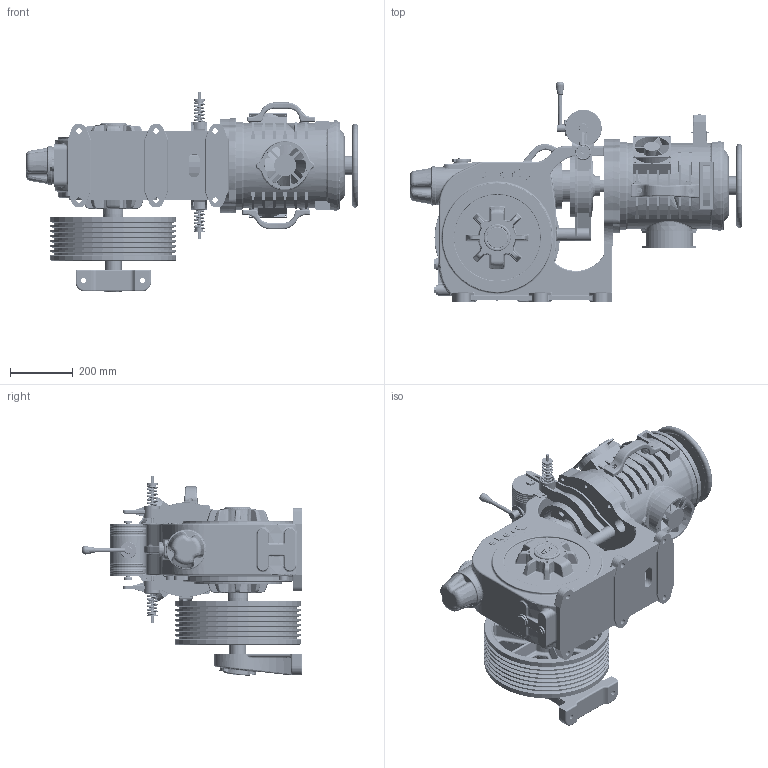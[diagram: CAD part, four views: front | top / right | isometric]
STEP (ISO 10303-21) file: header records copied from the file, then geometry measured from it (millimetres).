
FILE_DESCRIPTION (( 'STEP AP214' ), '1' );
FILE_NAME ('STP15063.STEP', '2026-01-27T13:14:37', ( '' ), ( '' ), 'SwSTEP 2.0', 'SolidWorks 2025', '' );
FILE_SCHEMA (( 'AUTOMOTIVE_DESIGN' ));
Length unit declared in the file: millimetre
Products named in the file (1): STP15063
Bounding box: 1058.07 x 701.71 x 637.28 mm (x, y, z)
Volume: 72086241.5 mm3; surface area: 4108788.5 mm2
Topology: 31 solids, 75 shells, 4991 faces, 11889 edges, 7168 vertices
Faces by surface type: cylinder 1658, plane 1298, bspline 889, torus 589, cone 374, sphere 183
Entity records: 203502 total; most frequent: CARTESIAN_POINT 93366, ORIENTED_EDGE 23544, DIRECTION 22438, EDGE_CURVE 11772, AXIS2_PLACEMENT_3D 9234, VERTEX_POINT 7160, EDGE_LOOP 5480, CIRCLE 5131
